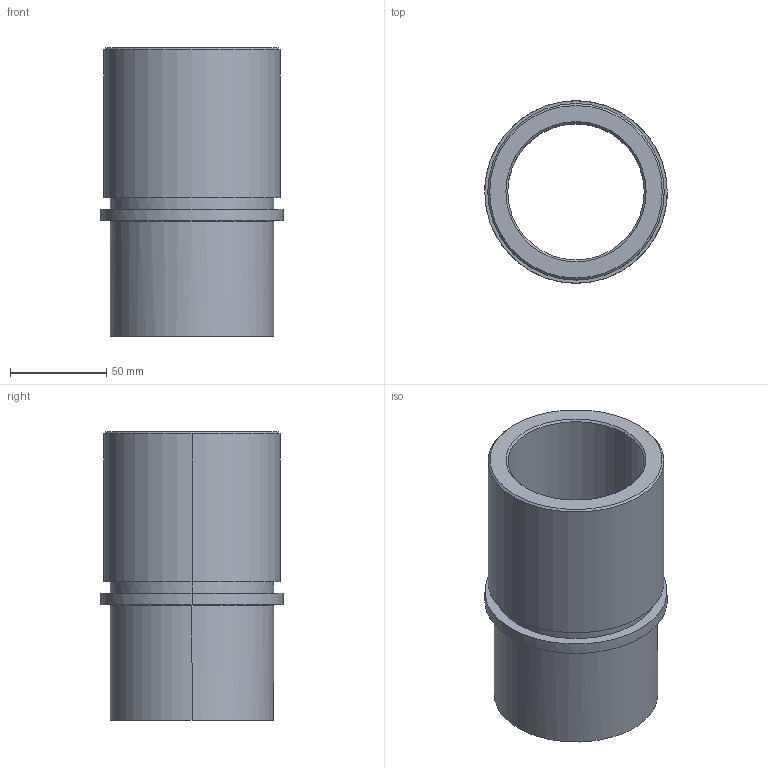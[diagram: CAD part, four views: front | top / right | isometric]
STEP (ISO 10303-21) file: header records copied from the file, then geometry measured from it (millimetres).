
FILE_DESCRIPTION(('CATIA V5 STEP Exchange'),'2;1');
FILE_NAME('C:\Users\Utente\Desktop\IO LAVORO\3D X SITO CF\X SITO\733\733-63.stp','2021-01-11T17:28:16+00:00',('none'),('none'),'CATIA Version 5 Release 20 GA (IN-10)','CATIA V5 STEP AP203','none');
FILE_SCHEMA(('CONFIG_CONTROL_DESIGN'));
Length unit declared in the file: millimetre
Products named in the file (1): 733-63
Assembly tree (1 placements, depth 2):
  733-63
    #58
Bounding box: 95 x 95 x 150 mm (x, y, z)
Volume: 338834.8 mm3; surface area: 83516.8 mm2
Topology: 1 solids, 1 shells, 25 faces, 50 edges, 30 vertices
Faces by surface type: cylinder 10, cone 6, plane 5, torus 4
Entity records: 851 total; most frequent: CARTESIAN_POINT 282, ORIENTED_EDGE 100, DIRECTION 96, AXIS2_PLACEMENT_3D 53, EDGE_CURVE 50, EDGE_LOOP 30, VERTEX_POINT 30, CIRCLE 26
